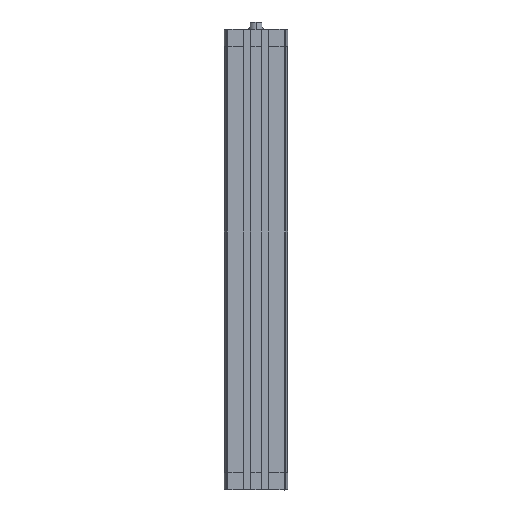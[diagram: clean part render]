
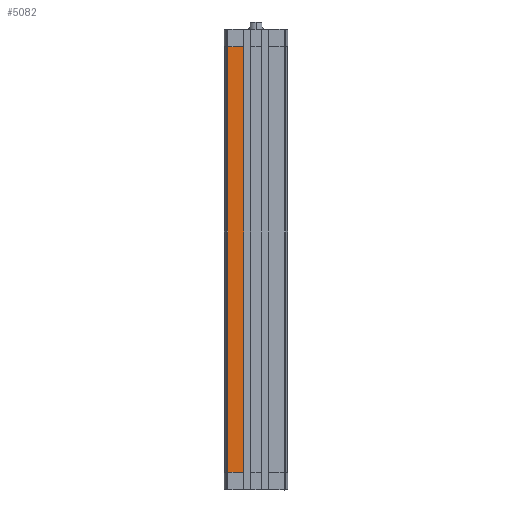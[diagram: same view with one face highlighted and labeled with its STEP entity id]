
A CAD part, left-side view. The second image highlights one B-rep face of the part: STEP entity #5082.
In plain terms, the highlighted planar face has unit normal (-1, 0, 0).
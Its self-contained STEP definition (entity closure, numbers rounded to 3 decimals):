
#34 = ORIENTED_EDGE ( 'NONE', *, *, #3136, .T. ) ;
#639 = DIRECTION ( 'NONE',  ( 0., 0., 1. ) ) ;
#730 = LINE ( 'NONE', #14528, #4292 ) ;
#1366 = DIRECTION ( 'NONE',  ( -1., 0., 0. ) ) ;
#1527 = VERTEX_POINT ( 'NONE', #3638 ) ;
#2504 = PLANE ( 'NONE',  #3674 ) ;
#2613 = FACE_OUTER_BOUND ( 'NONE', #11487, .T. ) ;
#3136 = EDGE_CURVE ( 'NONE', #12399, #9900, #730, .T. ) ;
#3638 = CARTESIAN_POINT ( 'NONE',  ( -27., 10.7, -380. ) ) ;
#3674 = AXIS2_PLACEMENT_3D ( 'NONE', #8557, #1366, #9749 ) ;
#4292 = VECTOR ( 'NONE', #4977, 1000. ) ;
#4356 = EDGE_CURVE ( 'NONE', #9900, #15228, #15200, .T. ) ;
#4977 = DIRECTION ( 'NONE',  ( 0., 1., 0. ) ) ;
#5082 = ADVANCED_FACE ( 'NONE', ( #2613 ), #2504, .T. ) ;
#5085 = CARTESIAN_POINT ( 'NONE',  ( -27., 24.093, -380. ) ) ;
#5718 = LINE ( 'NONE', #7832, #6493 ) ;
#6302 = DIRECTION ( 'NONE',  ( 0., 0., -1. ) ) ;
#6493 = VECTOR ( 'NONE', #639, 1000. ) ;
#6570 = EDGE_CURVE ( 'NONE', #1527, #12399, #5718, .T. ) ;
#6681 = DIRECTION ( 'NONE',  ( 0., -1., 0. ) ) ;
#7829 = ORIENTED_EDGE ( 'NONE', *, *, #6570, .T. ) ;
#7832 = CARTESIAN_POINT ( 'NONE',  ( -27., 10.7, -380. ) ) ;
#8557 = CARTESIAN_POINT ( 'NONE',  ( -27., 24.093, -380. ) ) ;
#9521 = CARTESIAN_POINT ( 'NONE',  ( -27., 24.093, -380. ) ) ;
#9612 = LINE ( 'NONE', #11472, #9980 ) ;
#9749 = DIRECTION ( 'NONE',  ( 0., 0., 1. ) ) ;
#9847 = CARTESIAN_POINT ( 'NONE',  ( -27., 24.093, -15. ) ) ;
#9900 = VERTEX_POINT ( 'NONE', #9847 ) ;
#9980 = VECTOR ( 'NONE', #6681, 1000. ) ;
#11472 = CARTESIAN_POINT ( 'NONE',  ( -27., 24.093, -380. ) ) ;
#11487 = EDGE_LOOP ( 'NONE', ( #14654, #7829, #34, #14891 ) ) ;
#11642 = VECTOR ( 'NONE', #6302, 1000. ) ;
#12399 = VERTEX_POINT ( 'NONE', #13250 ) ;
#13250 = CARTESIAN_POINT ( 'NONE',  ( -27., 10.7, -15. ) ) ;
#13494 = EDGE_CURVE ( 'NONE', #15228, #1527, #9612, .T. ) ;
#14528 = CARTESIAN_POINT ( 'NONE',  ( -27., 0., -15. ) ) ;
#14654 = ORIENTED_EDGE ( 'NONE', *, *, #13494, .T. ) ;
#14891 = ORIENTED_EDGE ( 'NONE', *, *, #4356, .T. ) ;
#15200 = LINE ( 'NONE', #5085, #11642 ) ;
#15228 = VERTEX_POINT ( 'NONE', #9521 ) ;
